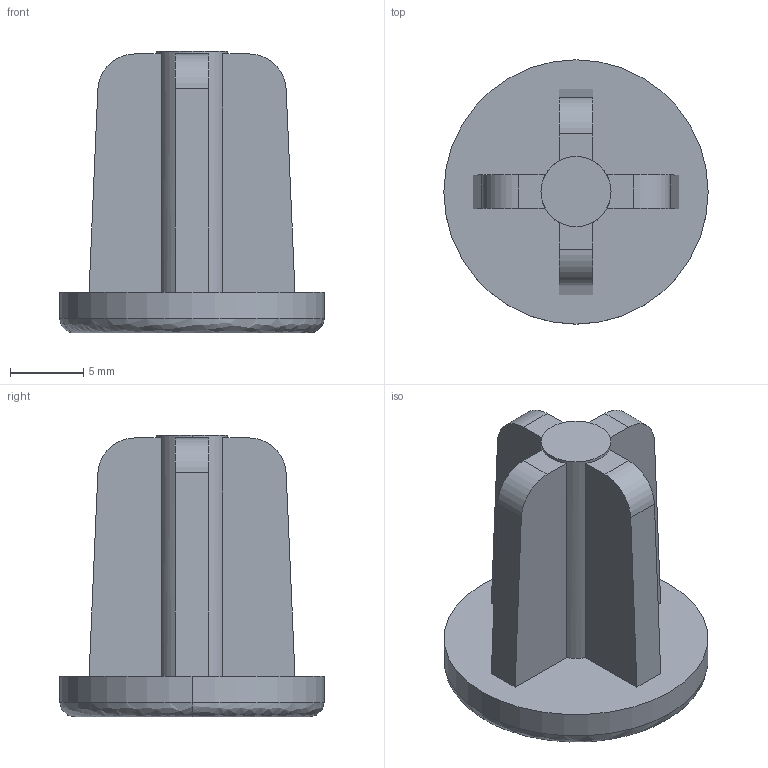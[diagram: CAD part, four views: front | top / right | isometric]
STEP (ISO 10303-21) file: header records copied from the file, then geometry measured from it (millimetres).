
FILE_DESCRIPTION (( 'STEP AP214' ), '1' );
FILE_NAME ('FGEC 18.step', '2017-04-05T07:37:06', ( '' ), ( '' ), 'SwSTEP 2.0', 'SolidWorks 2015', '' );
FILE_SCHEMA (( 'AUTOMOTIVE_DESIGN' ));
Length unit declared in the file: millimetre
Products named in the file (1): FGEC 18
Bounding box: 18.1 x 18.1 x 19.3 mm (x, y, z)
Volume: 1654.6 mm3; surface area: 1464.8 mm2
Topology: 1 solids, 1 shells, 29 faces, 76 edges, 50 vertices
Faces by surface type: plane 19, cylinder 8, bspline 2
Entity records: 956 total; most frequent: CARTESIAN_POINT 192, DIRECTION 156, ORIENTED_EDGE 152, EDGE_CURVE 76, AXIS2_PLACEMENT_3D 54, VERTEX_POINT 50, LINE 48, VECTOR 48
